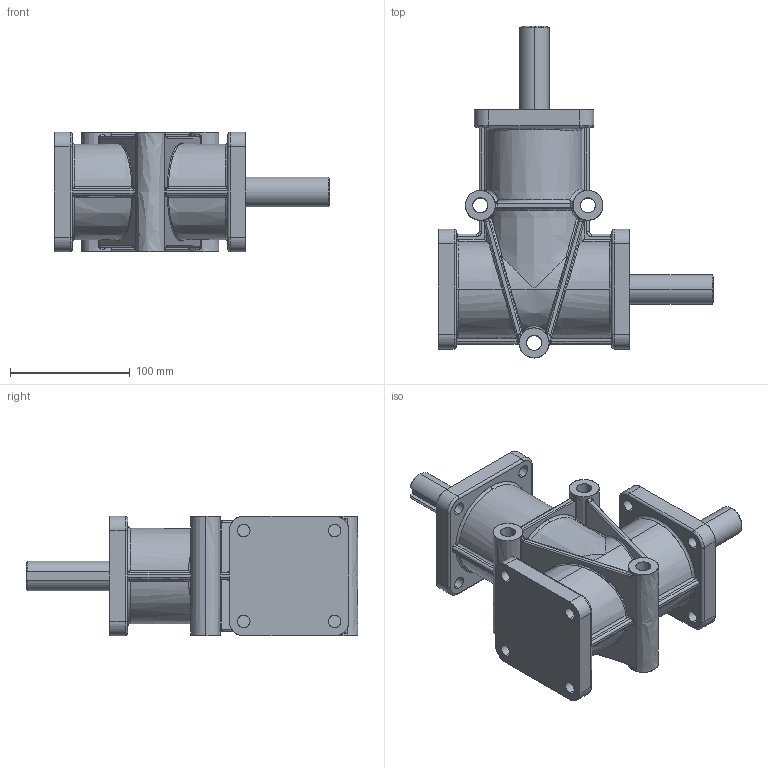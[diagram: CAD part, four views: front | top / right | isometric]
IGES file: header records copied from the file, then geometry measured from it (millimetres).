
Start section: SolidWorks IGES file using analytic representation for surfaces
Global section: file name: C:\Documents and Settings\IanO.IANOHOME\My Documents\Wix and Auto CAD Work\CAD Models\Parametric Models\Auto Models\R2312\R2312_IGES\4032.R1-1(D2).igs; native system: SolidWorks 2009; preprocessor: SolidWorks 2009; author: IanO; date: 100223.114333; units: millimetre
Bounding box: 230 x 277.5 x 100 mm (x, y, z)
Surface area: 177963 mm2 (no closed solid volume)
Topology: 0 solids, 0 shells, 386 faces, 5798 edges, 5781 vertices
Faces by surface type: bspline 208, revolution 178
